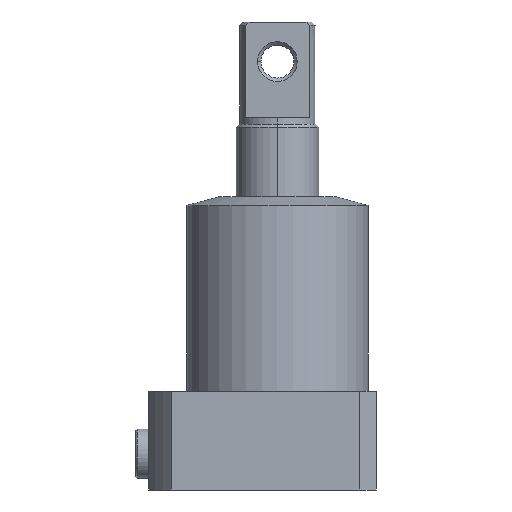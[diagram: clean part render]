
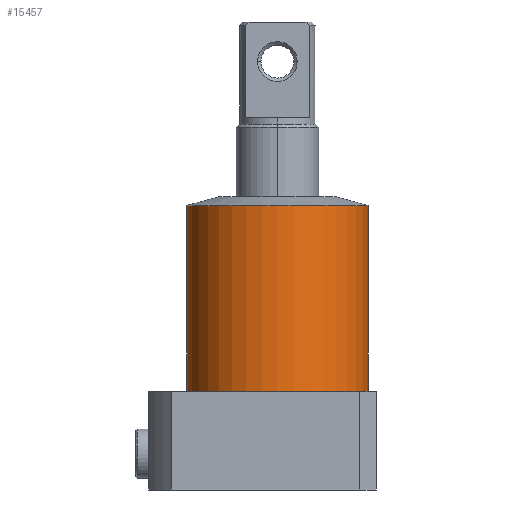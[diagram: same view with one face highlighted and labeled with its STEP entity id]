
A CAD part, front view. The second image highlights one B-rep face of the part: STEP entity #15457.
In plain terms, the highlighted cylindrical face has radius 27.5 mm (diameter 55 mm), a partial arc.
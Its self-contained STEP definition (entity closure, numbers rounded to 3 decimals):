
#67 = AXIS2_PLACEMENT_3D ( 'NONE', #13527, #5863, #14820 ) ;
#913 = ORIENTED_EDGE ( 'NONE', *, *, #12863, .F. ) ;
#1540 = DIRECTION ( 'NONE',  ( 0., 0., -1. ) ) ;
#1898 = EDGE_CURVE ( 'NONE', #16128, #5710, #10808, .T. ) ;
#1949 = CARTESIAN_POINT ( 'NONE',  ( -27.5, 0., 86.321 ) ) ;
#2059 = CIRCLE ( 'NONE', #67, 27.5 ) ;
#2658 = FACE_OUTER_BOUND ( 'NONE', #12810, .T. ) ;
#3021 = AXIS2_PLACEMENT_3D ( 'NONE', #13920, #8879, #4947 ) ;
#3164 = VECTOR ( 'NONE', #6535, 1000. ) ;
#3475 = CARTESIAN_POINT ( 'NONE',  ( 0., 0., 30. ) ) ;
#4773 = DIRECTION ( 'NONE',  ( -1., 0., 0. ) ) ;
#4947 = DIRECTION ( 'NONE',  ( -1., 0., 0. ) ) ;
#5114 = CARTESIAN_POINT ( 'NONE',  ( 27.5, 0., 30. ) ) ;
#5279 = VECTOR ( 'NONE', #1540, 1000. ) ;
#5710 = VERTEX_POINT ( 'NONE', #8212 ) ;
#5863 = DIRECTION ( 'NONE',  ( 0., 0., 1. ) ) ;
#6535 = DIRECTION ( 'NONE',  ( 0., 0., -1. ) ) ;
#7576 = EDGE_CURVE ( 'NONE', #12526, #5710, #13756, .T. ) ;
#7771 = CARTESIAN_POINT ( 'NONE',  ( -27.5, 0., 89. ) ) ;
#8212 = CARTESIAN_POINT ( 'NONE',  ( -27.5, 0., 30. ) ) ;
#8270 = LINE ( 'NONE', #15668, #5279 ) ;
#8773 = ORIENTED_EDGE ( 'NONE', *, *, #7576, .F. ) ;
#8879 = DIRECTION ( 'NONE',  ( 0., 0., -1. ) ) ;
#10453 = AXIS2_PLACEMENT_3D ( 'NONE', #3475, #12471, #4773 ) ;
#10808 = LINE ( 'NONE', #7771, #3164 ) ;
#11139 = VERTEX_POINT ( 'NONE', #11800 ) ;
#11800 = CARTESIAN_POINT ( 'NONE',  ( 27.5, 0., 86.321 ) ) ;
#11861 = ORIENTED_EDGE ( 'NONE', *, *, #1898, .T. ) ;
#12471 = DIRECTION ( 'NONE',  ( 0., 0., -1. ) ) ;
#12486 = CYLINDRICAL_SURFACE ( 'NONE', #3021, 27.5 ) ;
#12526 = VERTEX_POINT ( 'NONE', #5114 ) ;
#12810 = EDGE_LOOP ( 'NONE', ( #913, #14542, #11861, #8773 ) ) ;
#12863 = EDGE_CURVE ( 'NONE', #11139, #12526, #8270, .T. ) ;
#13527 = CARTESIAN_POINT ( 'NONE',  ( 0., 0., 86.321 ) ) ;
#13756 = CIRCLE ( 'NONE', #10453, 27.5 ) ;
#13920 = CARTESIAN_POINT ( 'NONE',  ( 0., 0., 89. ) ) ;
#14542 = ORIENTED_EDGE ( 'NONE', *, *, #16549, .F. ) ;
#14820 = DIRECTION ( 'NONE',  ( -1., 0., 0. ) ) ;
#15457 = ADVANCED_FACE ( 'NONE', ( #2658 ), #12486, .T. ) ;
#15668 = CARTESIAN_POINT ( 'NONE',  ( 27.5, 0., 89. ) ) ;
#16128 = VERTEX_POINT ( 'NONE', #1949 ) ;
#16549 = EDGE_CURVE ( 'NONE', #16128, #11139, #2059, .T. ) ;
